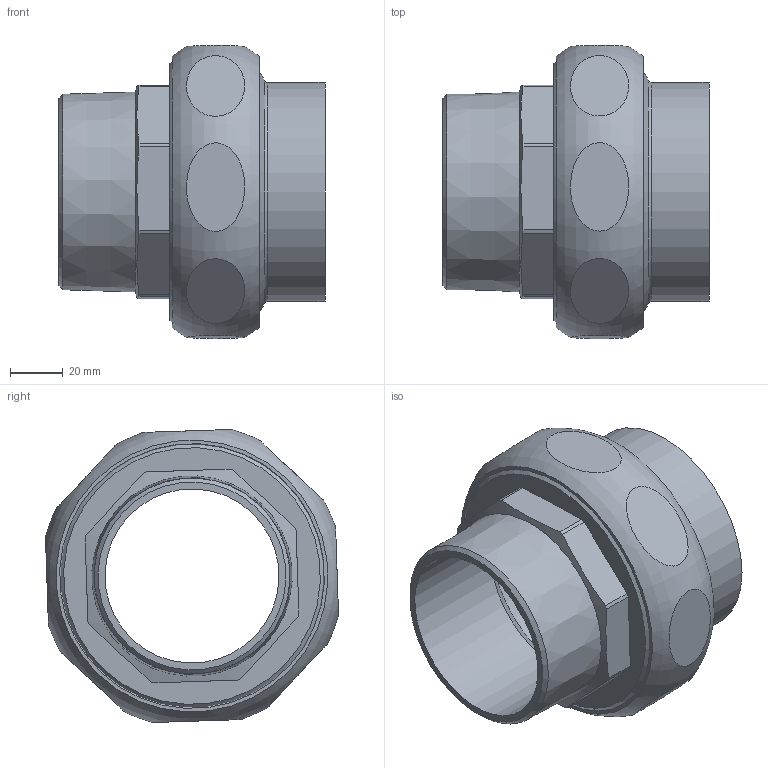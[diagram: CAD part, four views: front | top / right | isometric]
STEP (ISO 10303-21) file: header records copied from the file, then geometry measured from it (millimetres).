
FILE_DESCRIPTION(/* description */ (''),/* implementation_level */ '2;1');
FILE_NAME(/* name */ '\\lg50011\SANHA_LEGNICA\Engineering\Public\RYSUNKI\SANHA POLSKA\4343\Inventor\stp\1434376212.stp',/* time_stamp */ '2021-10-06T07:43:11+02:00',/* author */ ('gomulka'),/* organization */ (''),/* preprocessor_version */ 'ST-DEVELOPER v18.1',/* originating_system */ 'Autodesk Inventor 2021',/* authorisation */ '');
FILE_SCHEMA (('AUTOMOTIVE_DESIGN { 1 0 10303 214 3 1 1 }'));
Length unit declared in the file: millimetre
Products named in the file (4): 1434376212; 14381_76-312(1); 14386g_212-312(1); 14374_312(1)
Assembly tree (3 placements, depth 2):
  1434376212
    14381_76-312(1)
    14386g_212-312(1)
    14374_312(1)
Bounding box: 100.88 x 111.06 x 111.06 mm (x, y, z)
Volume: 244920.5 mm3; surface area: 88397.9 mm2
Topology: 3 solids, 3 shells, 59 faces, 155 edges, 114 vertices
Faces by surface type: plane 27, cylinder 19, cone 9, torus 4
Full cylindrical faces by diameter (mm): 66 x1, 74 x1, 76.1 x1, 78 x1, 83 x1, 89 x1, 91.5 x1, 93 x1, 96.5 x1, 97.372 x1, 100.33 x1
Entity records: 2704 total; most frequent: CARTESIAN_POINT 1002, DIRECTION 362, ORIENTED_EDGE 310, AXIS2_PLACEMENT_3D 159, EDGE_CURVE 155, VERTEX_POINT 114, CIRCLE 93, EDGE_LOOP 77
